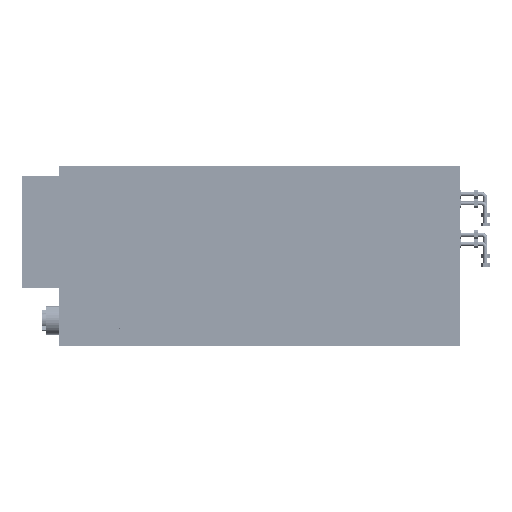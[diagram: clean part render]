
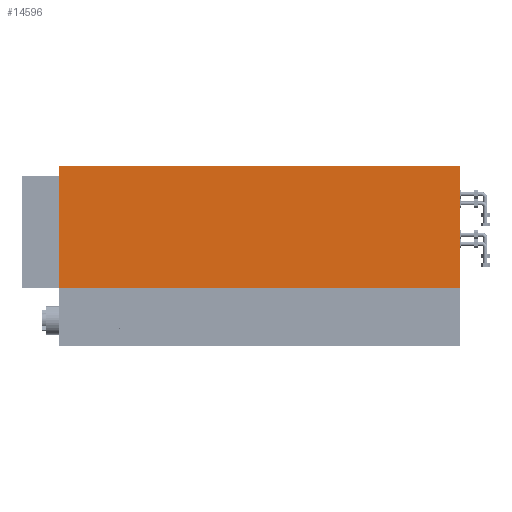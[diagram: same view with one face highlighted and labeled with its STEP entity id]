
A CAD part, top view. The second image highlights one B-rep face of the part: STEP entity #14596.
In plain terms, the highlighted planar face has unit normal (0, 0, 1).
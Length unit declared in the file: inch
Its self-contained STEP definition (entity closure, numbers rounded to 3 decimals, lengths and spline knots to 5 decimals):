
#378 = EDGE_CURVE ( 'NONE', #51507, #18986, #65273, .T. ) ;
#6209 = PLANE ( 'NONE',  #190388 ) ;
#9387 = CARTESIAN_POINT ( 'NONE',  ( -24.75, 22.125, 2.5625 ) ) ;
#13896 = EDGE_CURVE ( 'NONE', #143497, #18986, #71630, .T. ) ;
#14596 = ADVANCED_FACE ( 'NONE', ( #186555 ), #6209, .F. ) ;
#18986 = VERTEX_POINT ( 'NONE', #178391 ) ;
#21934 = CARTESIAN_POINT ( 'NONE',  ( 24.75, 22.125, 2.5625 ) ) ;
#23163 = EDGE_LOOP ( 'NONE', ( #138796, #96503, #105194, #61016 ) ) ;
#25595 = DIRECTION ( 'NONE',  ( -1., 0., 0. ) ) ;
#38848 = CARTESIAN_POINT ( 'NONE',  ( -24.75, 22.125, 2.5625 ) ) ;
#48196 = DIRECTION ( 'NONE',  ( 0., -1., 0. ) ) ;
#51507 = VERTEX_POINT ( 'NONE', #201314 ) ;
#61016 = ORIENTED_EDGE ( 'NONE', *, *, #143578, .F. ) ;
#65273 = LINE ( 'NONE', #119133, #86032 ) ;
#70557 = CARTESIAN_POINT ( 'NONE',  ( -24.75, 22.125, 2.5625 ) ) ;
#71630 = LINE ( 'NONE', #70557, #155724 ) ;
#84159 = VECTOR ( 'NONE', #48196, 39.37008 ) ;
#85350 = VERTEX_POINT ( 'NONE', #21934 ) ;
#86032 = VECTOR ( 'NONE', #148385, 39.37008 ) ;
#92550 = DIRECTION ( 'NONE',  ( 0., 0., -1. ) ) ;
#96503 = ORIENTED_EDGE ( 'NONE', *, *, #378, .F. ) ;
#104710 = DIRECTION ( 'NONE',  ( 1., 0., 0. ) ) ;
#105194 = ORIENTED_EDGE ( 'NONE', *, *, #204501, .F. ) ;
#116904 = LINE ( 'NONE', #38848, #138420 ) ;
#118054 = DIRECTION ( 'NONE',  ( 0., -1., 0. ) ) ;
#119133 = CARTESIAN_POINT ( 'NONE',  ( -24.75, 7.164, 2.5625 ) ) ;
#130228 = CARTESIAN_POINT ( 'NONE',  ( 24.75, 22.125, 2.5625 ) ) ;
#138420 = VECTOR ( 'NONE', #104710, 39.37008 ) ;
#138796 = ORIENTED_EDGE ( 'NONE', *, *, #13896, .T. ) ;
#143497 = VERTEX_POINT ( 'NONE', #175318 ) ;
#143578 = EDGE_CURVE ( 'NONE', #143497, #85350, #116904, .T. ) ;
#148385 = DIRECTION ( 'NONE',  ( -1., 0., 0. ) ) ;
#155724 = VECTOR ( 'NONE', #118054, 39.37008 ) ;
#175318 = CARTESIAN_POINT ( 'NONE',  ( -24.75, 22.125, 2.5625 ) ) ;
#178391 = CARTESIAN_POINT ( 'NONE',  ( -24.75, 7.164, 2.5625 ) ) ;
#186555 = FACE_OUTER_BOUND ( 'NONE', #23163, .T. ) ;
#190388 = AXIS2_PLACEMENT_3D ( 'NONE', #9387, #92550, #25595 ) ;
#201314 = CARTESIAN_POINT ( 'NONE',  ( 24.75, 7.164, 2.5625 ) ) ;
#204501 = EDGE_CURVE ( 'NONE', #85350, #51507, #212288, .T. ) ;
#212288 = LINE ( 'NONE', #130228, #84159 ) ;
